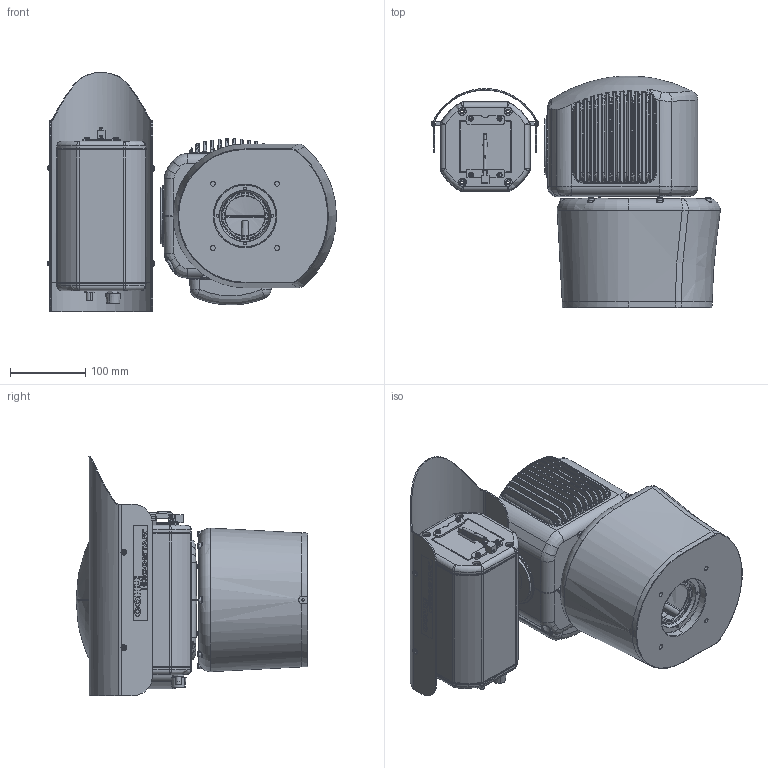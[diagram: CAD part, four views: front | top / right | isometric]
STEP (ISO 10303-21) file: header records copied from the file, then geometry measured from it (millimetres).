
FILE_DESCRIPTION (( 'STEP AP214' ), '1' );
FILE_NAME ('8190001-001 SHELL FILE.STEP', '2018-11-13T17:14:22', ( 'IT Department' ), ( 'Cohu, Inc.' ), 'SwSTEP 2.0', 'SolidWorks 2018', '' );
FILE_SCHEMA (( 'AUTOMOTIVE_DESIGN' ));
Length unit declared in the file: inch
Products named in the file (2): 8190001-001 SHELL FILE
Bounding box: 383.24 x 307.66 x 317.5 mm (x, y, z)
Surface area: 641871 mm2 (no closed solid volume)
Topology: 0 solids, 99 shells, 969 faces, 4347 edges, 3379 vertices
Faces by surface type: plane 332, cylinder 225, bspline 182, torus 133, cone 70, sphere 27
Entity records: 113535 total; most frequent: CARTESIAN_POINT 68265, DIRECTION 6256, ORIENTED_EDGE 6020, EDGE_CURVE 4328, VERTEX_POINT 3379, AXIS2_PLACEMENT_3D 2209, VECTOR 1838, LINE 1838
